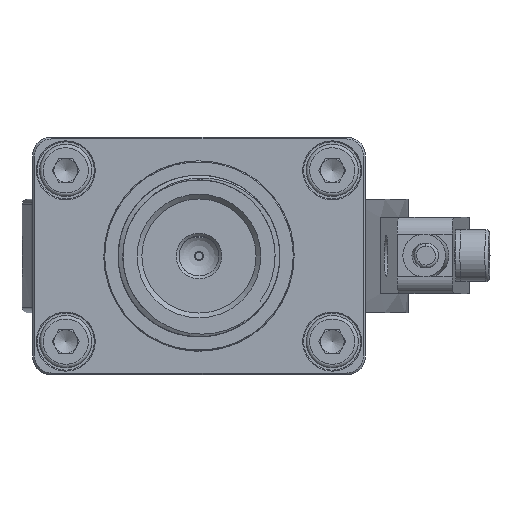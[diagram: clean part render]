
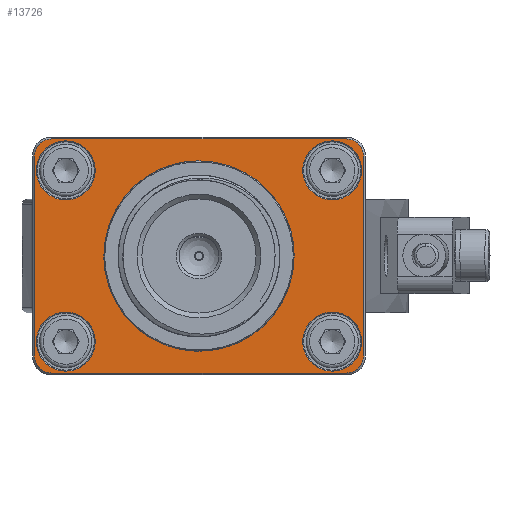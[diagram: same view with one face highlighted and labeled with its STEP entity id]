
A CAD part, front view. The second image highlights one B-rep face of the part: STEP entity #13726.
In plain terms, the highlighted planar face has unit normal (0, -1, 0).
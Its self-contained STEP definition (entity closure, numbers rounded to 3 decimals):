
#2994=LINE('',#50176,#4820);
#2995=LINE('',#50181,#4821);
#2996=LINE('',#50185,#4822);
#2997=LINE('',#50189,#4823);
#4820=VECTOR('',#32419,1.);
#4821=VECTOR('',#32422,1.);
#4822=VECTOR('',#32425,1.);
#4823=VECTOR('',#32428,1.);
#13726=ADVANCED_FACE('',(#14968,#14969,#14970,#14971,#14972,#14973),#14599,
 .T.);
#14599=PLANE('',#27796);
#14968=FACE_BOUND('',#16354,.T.);
#14969=FACE_BOUND('',#16355,.T.);
#14970=FACE_BOUND('',#16356,.T.);
#14971=FACE_BOUND('',#16357,.T.);
#14972=FACE_BOUND('',#16358,.T.);
#14973=FACE_BOUND('',#16359,.T.);
#16354=EDGE_LOOP('',(#21246));
#16355=EDGE_LOOP('',(#21247));
#16356=EDGE_LOOP('',(#21248));
#16357=EDGE_LOOP('',(#21249));
#16358=EDGE_LOOP('',(#21250));
#16359=EDGE_LOOP('',(#21251,#21252,#21253,#21254,#21255,#21256,#21257,#21258));
#21246=ORIENTED_EDGE('',*,*,#25811,.F.);
#21247=ORIENTED_EDGE('',*,*,#25810,.T.);
#21248=ORIENTED_EDGE('',*,*,#25809,.T.);
#21249=ORIENTED_EDGE('',*,*,#25808,.T.);
#21250=ORIENTED_EDGE('',*,*,#25807,.T.);
#21251=ORIENTED_EDGE('',*,*,#25812,.T.);
#21252=ORIENTED_EDGE('',*,*,#25813,.T.);
#21253=ORIENTED_EDGE('',*,*,#25814,.T.);
#21254=ORIENTED_EDGE('',*,*,#25815,.T.);
#21255=ORIENTED_EDGE('',*,*,#25816,.T.);
#21256=ORIENTED_EDGE('',*,*,#25817,.T.);
#21257=ORIENTED_EDGE('',*,*,#25818,.T.);
#21258=ORIENTED_EDGE('',*,*,#25819,.T.);
#23315=VERTEX_POINT('',#50162);
#23316=VERTEX_POINT('',#50165);
#23317=VERTEX_POINT('',#50168);
#23318=VERTEX_POINT('',#50171);
#23319=VERTEX_POINT('',#50174);
#23320=VERTEX_POINT('',#50177);
#23321=VERTEX_POINT('',#50178);
#23322=VERTEX_POINT('',#50180);
#23323=VERTEX_POINT('',#50182);
#23324=VERTEX_POINT('',#50184);
#23325=VERTEX_POINT('',#50186);
#23326=VERTEX_POINT('',#50188);
#23327=VERTEX_POINT('',#50190);
#25807=EDGE_CURVE('',#23315,#23315,#26391,.T.);
#25808=EDGE_CURVE('',#23316,#23316,#26392,.T.);
#25809=EDGE_CURVE('',#23317,#23317,#26393,.T.);
#25810=EDGE_CURVE('',#23318,#23318,#26394,.T.);
#25811=EDGE_CURVE('',#23319,#23319,#26395,.T.);
#25812=EDGE_CURVE('',#23320,#23321,#2994,.T.);
#25813=EDGE_CURVE('',#23321,#23322,#26396,.T.);
#25814=EDGE_CURVE('',#23322,#23323,#2995,.T.);
#25815=EDGE_CURVE('',#23323,#23324,#26397,.T.);
#25816=EDGE_CURVE('',#23324,#23325,#2996,.T.);
#25817=EDGE_CURVE('',#23325,#23326,#26398,.T.);
#25818=EDGE_CURVE('',#23326,#23327,#2997,.T.);
#25819=EDGE_CURVE('',#23327,#23320,#26399,.T.);
#26391=CIRCLE('',#27782,3.1);
#26392=CIRCLE('',#27784,3.1);
#26393=CIRCLE('',#27786,3.1);
#26394=CIRCLE('',#27788,3.1);
#26395=CIRCLE('',#27790,10.);
#26396=CIRCLE('',#27792,1.8);
#26397=CIRCLE('',#27793,1.8);
#26398=CIRCLE('',#27794,1.8);
#26399=CIRCLE('',#27795,1.8);
#27782=AXIS2_PLACEMENT_3D('',#50161,#32399,#32400);
#27784=AXIS2_PLACEMENT_3D('',#50164,#32403,#32404);
#27786=AXIS2_PLACEMENT_3D('',#50167,#32407,#32408);
#27788=AXIS2_PLACEMENT_3D('',#50170,#32411,#32412);
#27790=AXIS2_PLACEMENT_3D('',#50173,#32415,#32416);
#27792=AXIS2_PLACEMENT_3D('',#50179,#32420,#32421);
#27793=AXIS2_PLACEMENT_3D('',#50183,#32423,#32424);
#27794=AXIS2_PLACEMENT_3D('',#50187,#32426,#32427);
#27795=AXIS2_PLACEMENT_3D('',#50191,#32429,#32430);
#27796=AXIS2_PLACEMENT_3D('',#50192,#32431,#32432);
#32399=DIRECTION('',(0.,1.,0.));
#32400=DIRECTION('',(0.,0.,-1.));
#32403=DIRECTION('',(0.,1.,0.));
#32404=DIRECTION('',(0.,0.,-1.));
#32407=DIRECTION('',(0.,1.,0.));
#32408=DIRECTION('',(0.,0.,-1.));
#32411=DIRECTION('',(0.,1.,0.));
#32412=DIRECTION('',(0.,0.,-1.));
#32415=DIRECTION('',(0.,-1.,0.));
#32416=DIRECTION('',(0.,0.,1.));
#32419=DIRECTION('',(0.,0.,1.));
#32420=DIRECTION('',(0.,-1.,0.));
#32421=DIRECTION('',(0.,0.,1.));
#32422=DIRECTION('',(-1.,0.,0.));
#32423=DIRECTION('',(0.,-1.,0.));
#32424=DIRECTION('',(0.,0.,1.));
#32425=DIRECTION('',(0.,0.,-1.));
#32426=DIRECTION('',(0.,-1.,0.));
#32427=DIRECTION('',(0.,0.,1.));
#32428=DIRECTION('',(1.,0.,0.));
#32429=DIRECTION('',(0.,-1.,0.));
#32430=DIRECTION('',(0.,0.,1.));
#32431=DIRECTION('',(0.,-1.,0.));
#32432=DIRECTION('',(0.,0.,-1.));
#50161=CARTESIAN_POINT('',(-14.,-29.5,-21.5));
#50162=CARTESIAN_POINT('',(-14.,-29.5,-24.6));
#50164=CARTESIAN_POINT('',(-14.,-29.5,-3.5));
#50165=CARTESIAN_POINT('',(-14.,-29.5,-6.6));
#50167=CARTESIAN_POINT('',(14.,-29.5,-3.5));
#50168=CARTESIAN_POINT('',(14.,-29.5,-6.6));
#50170=CARTESIAN_POINT('',(14.,-29.5,-21.5));
#50171=CARTESIAN_POINT('',(14.,-29.5,-24.6));
#50173=CARTESIAN_POINT('',(0.,-29.5,-12.5));
#50174=CARTESIAN_POINT('',(0.,-29.5,-2.5));
#50176=CARTESIAN_POINT('',(17.3,-29.5,-21.5));
#50177=CARTESIAN_POINT('',(17.3,-29.5,-23.));
#50178=CARTESIAN_POINT('',(17.3,-29.5,-2.));
#50179=CARTESIAN_POINT('',(15.5,-29.5,-2.));
#50180=CARTESIAN_POINT('',(15.5,-29.5,-0.2));
#50181=CARTESIAN_POINT('',(-14.,-29.5,-0.2));
#50182=CARTESIAN_POINT('',(-15.5,-29.5,-0.2));
#50183=CARTESIAN_POINT('',(-15.5,-29.5,-2.));
#50184=CARTESIAN_POINT('',(-17.3,-29.5,-2.));
#50185=CARTESIAN_POINT('',(-17.3,-29.5,-21.5));
#50186=CARTESIAN_POINT('',(-17.3,-29.5,-23.));
#50187=CARTESIAN_POINT('',(-15.5,-29.5,-23.));
#50188=CARTESIAN_POINT('',(-15.5,-29.5,-24.8));
#50189=CARTESIAN_POINT('',(-14.,-29.5,-24.8));
#50190=CARTESIAN_POINT('',(15.5,-29.5,-24.8));
#50191=CARTESIAN_POINT('',(15.5,-29.5,-23.));
#50192=CARTESIAN_POINT('',(-14.,-29.5,-21.5));
